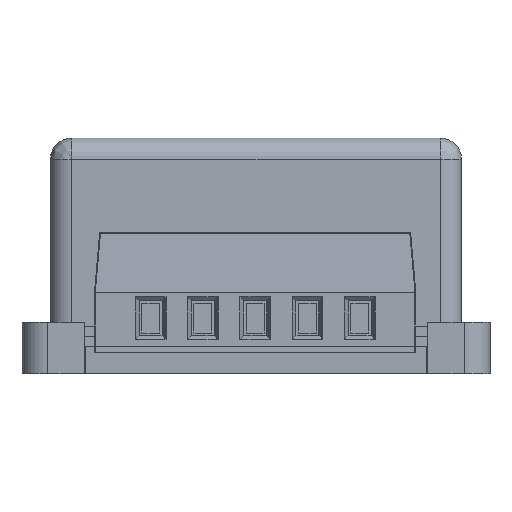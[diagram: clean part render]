
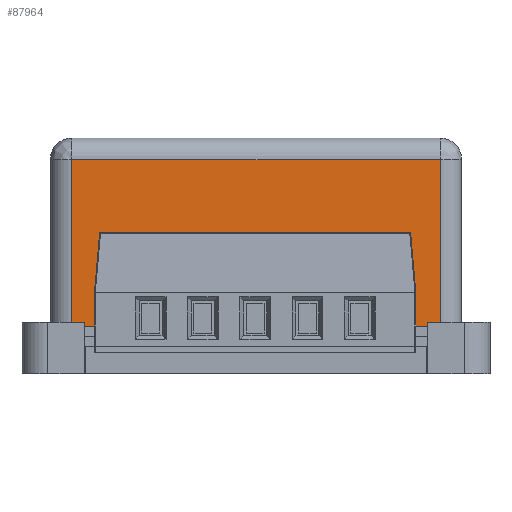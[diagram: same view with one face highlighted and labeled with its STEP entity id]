
A CAD part, front view. The second image highlights one B-rep face of the part: STEP entity #87964.
In plain terms, the highlighted planar face has unit normal (0, -1, 0) as drawn and (1, 0, 0) by its records, which use the part's own axes.
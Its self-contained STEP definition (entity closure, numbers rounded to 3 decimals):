
#2660 = ORIENTED_EDGE ( 'NONE', *, *, #105018, .T. ) ;
#11159 = DIRECTION ( 'NONE',  ( -1., 0., 0. ) ) ;
#14614 = EDGE_CURVE ( 'NONE', #133793, #32744, #30262, .T. ) ;
#18039 = EDGE_LOOP ( 'NONE', ( #36380, #2660, #90749, #30183 ) ) ;
#19921 = EDGE_CURVE ( 'NONE', #30010, #78581, #122043, .T. ) ;
#22530 = FACE_OUTER_BOUND ( 'NONE', #18039, .T. ) ;
#26362 = CARTESIAN_POINT ( 'NONE',  ( 35., -21.5, 19.5 ) ) ;
#29195 = AXIS2_PLACEMENT_3D ( 'NONE', #75546, #11159, #86314 ) ;
#30010 = VERTEX_POINT ( 'NONE', #86565 ) ;
#30183 = ORIENTED_EDGE ( 'NONE', *, *, #130910, .F. ) ;
#30262 = LINE ( 'NONE', #46363, #33649 ) ;
#30332 = LINE ( 'NONE', #31984, #87567 ) ;
#31984 = CARTESIAN_POINT ( 'NONE',  ( 35., -24., 0. ) ) ;
#32205 = PLANE ( 'NONE',  #29195 ) ;
#32744 = VERTEX_POINT ( 'NONE', #134112 ) ;
#33649 = VECTOR ( 'NONE', #131585, 1000. ) ;
#34209 = CARTESIAN_POINT ( 'NONE',  ( 35., 21.5, 19.5 ) ) ;
#36124 = VECTOR ( 'NONE', #54862, 1000. ) ;
#36380 = ORIENTED_EDGE ( 'NONE', *, *, #19921, .F. ) ;
#46363 = CARTESIAN_POINT ( 'NONE',  ( 35., 21.5, 22. ) ) ;
#54862 = DIRECTION ( 'NONE',  ( 0., 0., 1. ) ) ;
#69564 = CARTESIAN_POINT ( 'NONE',  ( 35., 24., 19.5 ) ) ;
#73402 = LINE ( 'NONE', #69564, #127315 ) ;
#75546 = CARTESIAN_POINT ( 'NONE',  ( 35., 24., 22. ) ) ;
#78581 = VERTEX_POINT ( 'NONE', #26362 ) ;
#80397 = DIRECTION ( 'NONE',  ( 0., 1., 0. ) ) ;
#86314 = DIRECTION ( 'NONE',  ( 0., -1., 0. ) ) ;
#86565 = CARTESIAN_POINT ( 'NONE',  ( 35., -21.5, 0. ) ) ;
#87567 = VECTOR ( 'NONE', #107342, 1000. ) ;
#87964 = ADVANCED_FACE ( 'NONE', ( #22530 ), #32205, .F. ) ;
#88192 = CARTESIAN_POINT ( 'NONE',  ( 35., -21.5, 22. ) ) ;
#90749 = ORIENTED_EDGE ( 'NONE', *, *, #14614, .F. ) ;
#105018 = EDGE_CURVE ( 'NONE', #30010, #32744, #30332, .T. ) ;
#107342 = DIRECTION ( 'NONE',  ( 0., 1., 0. ) ) ;
#122043 = LINE ( 'NONE', #88192, #36124 ) ;
#127315 = VECTOR ( 'NONE', #80397, 1000. ) ;
#130910 = EDGE_CURVE ( 'NONE', #78581, #133793, #73402, .T. ) ;
#131585 = DIRECTION ( 'NONE',  ( 0., 0., -1. ) ) ;
#133793 = VERTEX_POINT ( 'NONE', #34209 ) ;
#134112 = CARTESIAN_POINT ( 'NONE',  ( 35., 21.5, 0. ) ) ;
